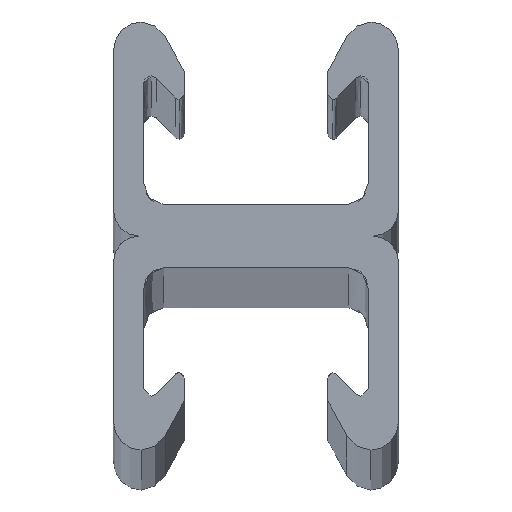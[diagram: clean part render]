
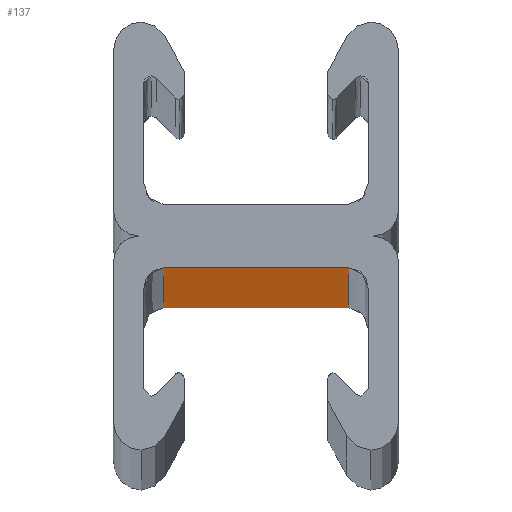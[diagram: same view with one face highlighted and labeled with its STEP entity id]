
A CAD part, top view. The second image highlights one B-rep face of the part: STEP entity #137.
In plain terms, the highlighted planar face has unit normal (0, -1, 0).
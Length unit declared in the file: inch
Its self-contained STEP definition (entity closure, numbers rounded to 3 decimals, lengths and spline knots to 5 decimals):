
#137=ADVANCED_FACE('',(#297),#298,.T.);
#297=FACE_OUTER_BOUND('',#569,.T.);
#298=PLANE('',#570);
#569=EDGE_LOOP('',(#1155,#1156,#1157,#1158));
#570=AXIS2_PLACEMENT_3D('',#1159,#1160,#1161);
#1155=ORIENTED_EDGE('',*,*,#1503,.T.);
#1156=ORIENTED_EDGE('',*,*,#1445,.F.);
#1157=ORIENTED_EDGE('',*,*,#1411,.T.);
#1158=ORIENTED_EDGE('',*,*,#1522,.T.);
#1159=CARTESIAN_POINT('',(0.75154,-0.30638,0.0));
#1160=DIRECTION('',(0.,-1.,0.0));
#1161=DIRECTION('',(1.,0.,0.0));
#1411=EDGE_CURVE('',#1689,#1687,#1690,.T.);
#1445=EDGE_CURVE('',#1689,#1744,#1748,.T.);
#1503=EDGE_CURVE('',#1833,#1744,#1834,.T.);
#1522=EDGE_CURVE('',#1687,#1833,#1861,.T.);
#1687=VERTEX_POINT('',#2122);
#1689=VERTEX_POINT('',#2127);
#1690=LINE('',#2128,#2129);
#1744=VERTEX_POINT('',#2237);
#1748=LINE('',#2245,#2246);
#1833=VERTEX_POINT('',#2400);
#1834=LINE('',#2401,#2402);
#1861=LINE('',#2460,#2461);
#2122=CARTESIAN_POINT('',(1.23811,-0.30645,0.0));
#2127=CARTESIAN_POINT('',(0.26497,-0.30632,0.0));
#2128=CARTESIAN_POINT('',(0.26497,-0.30632,0.0));
#2129=VECTOR('',#2568,1.0);
#2237=CARTESIAN_POINT('',(0.26497,-0.30632,120.0));
#2245=CARTESIAN_POINT('',(0.26497,-0.30632,0.0));
#2246=VECTOR('',#2588,1.0);
#2400=CARTESIAN_POINT('',(1.23811,-0.30645,120.0));
#2401=CARTESIAN_POINT('',(0.26497,-0.30632,120.0));
#2402=VECTOR('',#2625,1.0);
#2460=CARTESIAN_POINT('',(1.23811,-0.30645,0.0));
#2461=VECTOR('',#2636,1.0);
#2568=DIRECTION('',(1.,0.,0.0));
#2588=DIRECTION('',(0.0,0.0,1.0));
#2625=DIRECTION('',(-1.,0.,0.0));
#2636=DIRECTION('',(0.0,0.0,1.0));
